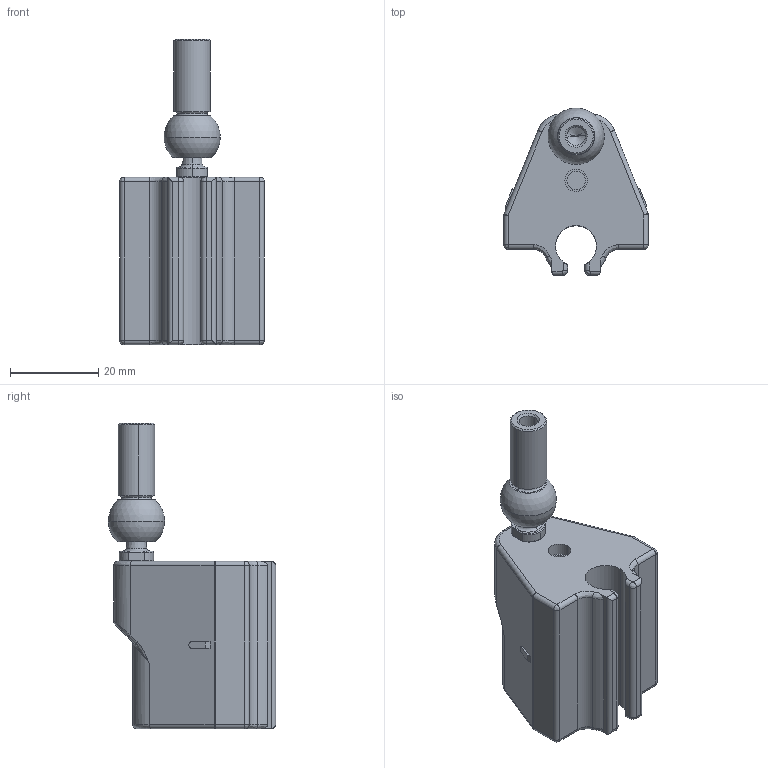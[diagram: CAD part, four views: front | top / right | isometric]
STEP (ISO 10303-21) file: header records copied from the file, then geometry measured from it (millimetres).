
FILE_DESCRIPTION (( 'STEP AP203' ), '1' );
FILE_NAME ('PCUR221x.STEP', '2018-12-17T13:22:42', ( '' ), ( '' ), 'SwSTEP 2.0', 'SolidWorks 2019', '' );
FILE_SCHEMA (( 'CONFIG_CONTROL_DESIGN' ));
Length unit declared in the file: millimetre
Products named in the file (1): PCUR221x
Bounding box: 32.8 x 37.98 x 69.33 mm (x, y, z)
Volume: 28439.8 mm3; surface area: 9869.1 mm2
Topology: 3 solids, 4 shells, 191 faces, 438 edges, 257 vertices
Faces by surface type: cylinder 74, plane 50, bspline 30, torus 20, cone 12, sphere 5
Entity records: 6082 total; most frequent: CARTESIAN_POINT 1893, DIRECTION 891, ORIENTED_EDGE 836, EDGE_CURVE 418, AXIS2_PLACEMENT_3D 359, VERTEX_POINT 252, EDGE_LOOP 208, CIRCLE 197
